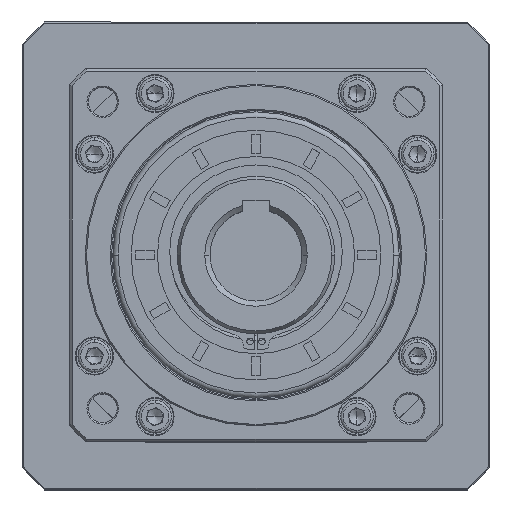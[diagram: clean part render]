
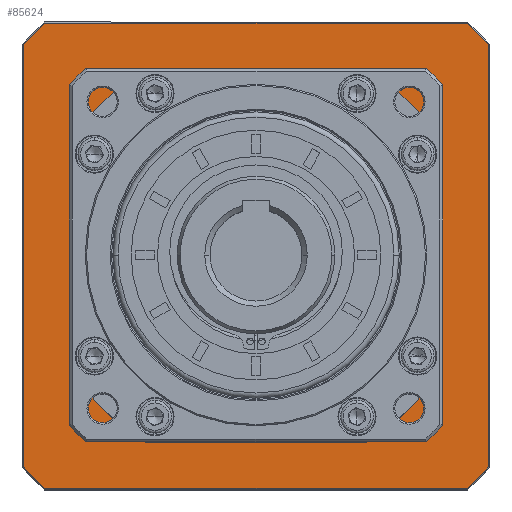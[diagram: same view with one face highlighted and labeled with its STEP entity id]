
A CAD part, top view. The second image highlights one B-rep face of the part: STEP entity #85624.
In plain terms, the highlighted planar face has unit normal (0, 0, 1).
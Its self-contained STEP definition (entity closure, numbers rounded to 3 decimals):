
#540 = FACE_OUTER_BOUND ( 'NONE', #14707, .T. ) ;
#775 = EDGE_CURVE ( 'NONE', #60615, #89404, #3294, .T. ) ;
#789 = DIRECTION ( 'NONE',  ( 1., 0., 0. ) ) ;
#2204 = CARTESIAN_POINT ( 'NONE',  ( 135.895, 122.594, 29.727 ) ) ;
#3294 = CIRCLE ( 'NONE', #44769, 82. ) ;
#4537 = DIRECTION ( 'NONE',  ( 0., 0., -1. ) ) ;
#5418 = CIRCLE ( 'NONE', #38886, 82. ) ;
#6134 = FACE_BOUND ( 'NONE', #57338, .T. ) ;
#6343 = ORIENTED_EDGE ( 'NONE', *, *, #85015, .F. ) ;
#7187 = CARTESIAN_POINT ( 'NONE',  ( 94.017, 193.094, 29.727 ) ) ;
#8752 = CIRCLE ( 'NONE', #62255, 119.5 ) ;
#9598 = DIRECTION ( 'NONE',  ( 0., 0., -1. ) ) ;
#13056 = ORIENTED_EDGE ( 'NONE', *, *, #70949, .F. ) ;
#13481 = DIRECTION ( 'NONE',  ( -1., 0., 0. ) ) ;
#14707 = EDGE_LOOP ( 'NONE', ( #79389, #70031, #6343, #110914, #72105, #28048, #21542, #109996 ) ) ;
#14813 = EDGE_CURVE ( 'NONE', #113367, #114345, #85547, .T. ) ;
#16390 = CARTESIAN_POINT ( 'NONE',  ( 224.395, 202.893, 29.727 ) ) ;
#17147 = PLANE ( 'NONE',  #35125 ) ;
#18864 = EDGE_CURVE ( 'NONE', #75620, #38920, #81028, .T. ) ;
#19364 = CARTESIAN_POINT ( 'NONE',  ( 94.017, 52.094, 29.727 ) ) ;
#20070 = VERTEX_POINT ( 'NONE', #87962 ) ;
#21542 = ORIENTED_EDGE ( 'NONE', *, *, #18864, .F. ) ;
#21808 = VERTEX_POINT ( 'NONE', #75846 ) ;
#22560 = CARTESIAN_POINT ( 'NONE',  ( 47.395, 202.893, 29.727 ) ) ;
#24618 = EDGE_CURVE ( 'NONE', #85584, #43837, #38488, .T. ) ;
#24665 = DIRECTION ( 'NONE',  ( 1., 0., 0. ) ) ;
#25680 = DIRECTION ( 'NONE',  ( 0., 0., -1. ) ) ;
#26072 = CARTESIAN_POINT ( 'NONE',  ( 206.395, 80.716, 29.727 ) ) ;
#28048 = ORIENTED_EDGE ( 'NONE', *, *, #59879, .F. ) ;
#28404 = DIRECTION ( 'NONE',  ( 0., 0., 1. ) ) ;
#29006 = VECTOR ( 'NONE', #61575, 1000. ) ;
#29858 = CIRCLE ( 'NONE', #99706, 119.5 ) ;
#30866 = CARTESIAN_POINT ( 'NONE',  ( 216.194, 211.094, 29.727 ) ) ;
#30901 = CARTESIAN_POINT ( 'NONE',  ( 224.395, 42.294, 29.727 ) ) ;
#34829 = CARTESIAN_POINT ( 'NONE',  ( 135.895, 122.594, 29.727 ) ) ;
#35051 = CARTESIAN_POINT ( 'NONE',  ( 135.895, 122.594, 29.727 ) ) ;
#35125 = AXIS2_PLACEMENT_3D ( 'NONE', #35051, #25680, #113809 ) ;
#35444 = VERTEX_POINT ( 'NONE', #30866 ) ;
#37338 = DIRECTION ( 'NONE',  ( 0., 0., 1. ) ) ;
#38488 = LINE ( 'NONE', #83322, #100884 ) ;
#38886 = AXIS2_PLACEMENT_3D ( 'NONE', #85846, #86238, #67275 ) ;
#38920 = VERTEX_POINT ( 'NONE', #22560 ) ;
#39265 = DIRECTION ( 'NONE',  ( 0., 0., -1. ) ) ;
#41235 = DIRECTION ( 'NONE',  ( 0., 1., 0. ) ) ;
#42863 = EDGE_CURVE ( 'NONE', #89404, #102251, #46548, .T. ) ;
#43837 = VERTEX_POINT ( 'NONE', #66933 ) ;
#43996 = DIRECTION ( 'NONE',  ( 0., -1., 0. ) ) ;
#44769 = AXIS2_PLACEMENT_3D ( 'NONE', #81640, #28404, #46310 ) ;
#46157 = CARTESIAN_POINT ( 'NONE',  ( 55.595, 211.094, 29.727 ) ) ;
#46310 = DIRECTION ( 'NONE',  ( 0., -1., 0. ) ) ;
#46548 = LINE ( 'NONE', #58604, #49346 ) ;
#46937 = CIRCLE ( 'NONE', #74450, 119.5 ) ;
#48040 = DIRECTION ( 'NONE',  ( 0., 1., 0. ) ) ;
#49154 = CARTESIAN_POINT ( 'NONE',  ( 177.773, 52.094, 29.727 ) ) ;
#49346 = VECTOR ( 'NONE', #58982, 1000. ) ;
#50121 = VECTOR ( 'NONE', #103986, 1000. ) ;
#50863 = VECTOR ( 'NONE', #110137, 1000. ) ;
#51663 = AXIS2_PLACEMENT_3D ( 'NONE', #105482, #106239, #114420 ) ;
#51745 = ORIENTED_EDGE ( 'NONE', *, *, #775, .F. ) ;
#57007 = LINE ( 'NONE', #95434, #50121 ) ;
#57338 = EDGE_LOOP ( 'NONE', ( #89288, #88277, #90155, #89768, #51745, #13056, #100768, #83062 ) ) ;
#57401 = VECTOR ( 'NONE', #41235, 1000. ) ;
#57785 = CARTESIAN_POINT ( 'NONE',  ( 135.895, 122.594, 29.727 ) ) ;
#58604 = CARTESIAN_POINT ( 'NONE',  ( 206.895, 52.094, 29.727 ) ) ;
#58982 = DIRECTION ( 'NONE',  ( 1., 0., 0. ) ) ;
#59879 = EDGE_CURVE ( 'NONE', #38920, #65332, #46937, .T. ) ;
#60615 = VERTEX_POINT ( 'NONE', #99819 ) ;
#60618 = CIRCLE ( 'NONE', #51663, 82. ) ;
#60861 = EDGE_CURVE ( 'NONE', #43837, #21808, #5418, .T. ) ;
#61575 = DIRECTION ( 'NONE',  ( -1., 0., 0. ) ) ;
#62255 = AXIS2_PLACEMENT_3D ( 'NONE', #74614, #39265, #101290 ) ;
#62976 = EDGE_CURVE ( 'NONE', #97385, #75620, #8752, .T. ) ;
#63682 = CARTESIAN_POINT ( 'NONE',  ( 55.595, 34.094, 29.727 ) ) ;
#64395 = DIRECTION ( 'NONE',  ( -1., 0., 0. ) ) ;
#65332 = VERTEX_POINT ( 'NONE', #46157 ) ;
#66676 = EDGE_CURVE ( 'NONE', #21808, #79530, #57007, .T. ) ;
#66933 = CARTESIAN_POINT ( 'NONE',  ( 206.395, 164.471, 29.727 ) ) ;
#67275 = DIRECTION ( 'NONE',  ( 0., -1., 0. ) ) ;
#67668 = CARTESIAN_POINT ( 'NONE',  ( 47.395, 122.594, 29.727 ) ) ;
#70031 = ORIENTED_EDGE ( 'NONE', *, *, #14813, .F. ) ;
#70328 = LINE ( 'NONE', #77934, #114650 ) ;
#70949 = EDGE_CURVE ( 'NONE', #20070, #60615, #91442, .T. ) ;
#72105 = ORIENTED_EDGE ( 'NONE', *, *, #87103, .F. ) ;
#74450 = AXIS2_PLACEMENT_3D ( 'NONE', #34829, #88412, #97633 ) ;
#74614 = CARTESIAN_POINT ( 'NONE',  ( 135.895, 122.594, 29.727 ) ) ;
#75620 = VERTEX_POINT ( 'NONE', #100619 ) ;
#75846 = CARTESIAN_POINT ( 'NONE',  ( 177.773, 193.094, 29.727 ) ) ;
#77934 = CARTESIAN_POINT ( 'NONE',  ( 135.895, 211.094, 29.727 ) ) ;
#79389 = ORIENTED_EDGE ( 'NONE', *, *, #115007, .F. ) ;
#79530 = VERTEX_POINT ( 'NONE', #7187 ) ;
#80092 = CARTESIAN_POINT ( 'NONE',  ( 65.395, 51.594, 29.727 ) ) ;
#81028 = LINE ( 'NONE', #67668, #57401 ) ;
#81640 = CARTESIAN_POINT ( 'NONE',  ( 135.895, 122.594, 29.727 ) ) ;
#83062 = ORIENTED_EDGE ( 'NONE', *, *, #66676, .F. ) ;
#83322 = CARTESIAN_POINT ( 'NONE',  ( 206.395, 51.594, 29.727 ) ) ;
#83772 = CIRCLE ( 'NONE', #100439, 82. ) ;
#85015 = EDGE_CURVE ( 'NONE', #87547, #113367, #104904, .T. ) ;
#85171 = EDGE_CURVE ( 'NONE', #35444, #87547, #29858, .T. ) ;
#85547 = CIRCLE ( 'NONE', #111274, 119.5 ) ;
#85584 = VERTEX_POINT ( 'NONE', #26072 ) ;
#85624 = ADVANCED_FACE ( 'NONE', ( #540, #6134 ), #17147, .F. ) ;
#85846 = CARTESIAN_POINT ( 'NONE',  ( 135.895, 122.594, 29.727 ) ) ;
#86238 = DIRECTION ( 'NONE',  ( 0., 0., 1. ) ) ;
#86469 = EDGE_CURVE ( 'NONE', #102251, #85584, #60618, .T. ) ;
#87103 = EDGE_CURVE ( 'NONE', #65332, #35444, #70328, .T. ) ;
#87547 = VERTEX_POINT ( 'NONE', #16390 ) ;
#87962 = CARTESIAN_POINT ( 'NONE',  ( 65.395, 164.471, 29.727 ) ) ;
#88277 = ORIENTED_EDGE ( 'NONE', *, *, #24618, .F. ) ;
#88412 = DIRECTION ( 'NONE',  ( 0., 0., -1. ) ) ;
#89288 = ORIENTED_EDGE ( 'NONE', *, *, #60861, .F. ) ;
#89404 = VERTEX_POINT ( 'NONE', #19364 ) ;
#89768 = ORIENTED_EDGE ( 'NONE', *, *, #42863, .F. ) ;
#90155 = ORIENTED_EDGE ( 'NONE', *, *, #86469, .F. ) ;
#91442 = LINE ( 'NONE', #80092, #112212 ) ;
#91645 = CARTESIAN_POINT ( 'NONE',  ( 216.194, 34.094, 29.727 ) ) ;
#94702 = EDGE_CURVE ( 'NONE', #79530, #20070, #83772, .T. ) ;
#95434 = CARTESIAN_POINT ( 'NONE',  ( 206.895, 193.094, 29.727 ) ) ;
#95694 = LINE ( 'NONE', #96419, #29006 ) ;
#96419 = CARTESIAN_POINT ( 'NONE',  ( 135.895, 34.094, 29.727 ) ) ;
#97385 = VERTEX_POINT ( 'NONE', #63682 ) ;
#97633 = DIRECTION ( 'NONE',  ( -1., 0., 0. ) ) ;
#99706 = AXIS2_PLACEMENT_3D ( 'NONE', #57785, #4537, #13481 ) ;
#99819 = CARTESIAN_POINT ( 'NONE',  ( 65.395, 80.716, 29.727 ) ) ;
#100439 = AXIS2_PLACEMENT_3D ( 'NONE', #107141, #37338, #789 ) ;
#100619 = CARTESIAN_POINT ( 'NONE',  ( 47.395, 42.294, 29.727 ) ) ;
#100768 = ORIENTED_EDGE ( 'NONE', *, *, #94702, .F. ) ;
#100884 = VECTOR ( 'NONE', #48040, 1000. ) ;
#101290 = DIRECTION ( 'NONE',  ( -1., 0., 0. ) ) ;
#102251 = VERTEX_POINT ( 'NONE', #49154 ) ;
#103986 = DIRECTION ( 'NONE',  ( -1., 0., 0. ) ) ;
#104904 = LINE ( 'NONE', #107793, #50863 ) ;
#105482 = CARTESIAN_POINT ( 'NONE',  ( 135.895, 122.594, 29.727 ) ) ;
#106239 = DIRECTION ( 'NONE',  ( 0., 0., 1. ) ) ;
#107141 = CARTESIAN_POINT ( 'NONE',  ( 135.895, 122.594, 29.727 ) ) ;
#107793 = CARTESIAN_POINT ( 'NONE',  ( 224.395, 122.594, 29.727 ) ) ;
#109996 = ORIENTED_EDGE ( 'NONE', *, *, #62976, .F. ) ;
#110137 = DIRECTION ( 'NONE',  ( 0., -1., 0. ) ) ;
#110914 = ORIENTED_EDGE ( 'NONE', *, *, #85171, .F. ) ;
#111274 = AXIS2_PLACEMENT_3D ( 'NONE', #2204, #9598, #64395 ) ;
#112212 = VECTOR ( 'NONE', #43996, 1000. ) ;
#113367 = VERTEX_POINT ( 'NONE', #30901 ) ;
#113809 = DIRECTION ( 'NONE',  ( -1., 0., 0. ) ) ;
#114345 = VERTEX_POINT ( 'NONE', #91645 ) ;
#114420 = DIRECTION ( 'NONE',  ( 1., 0., 0. ) ) ;
#114650 = VECTOR ( 'NONE', #24665, 1000. ) ;
#115007 = EDGE_CURVE ( 'NONE', #114345, #97385, #95694, .T. ) ;
